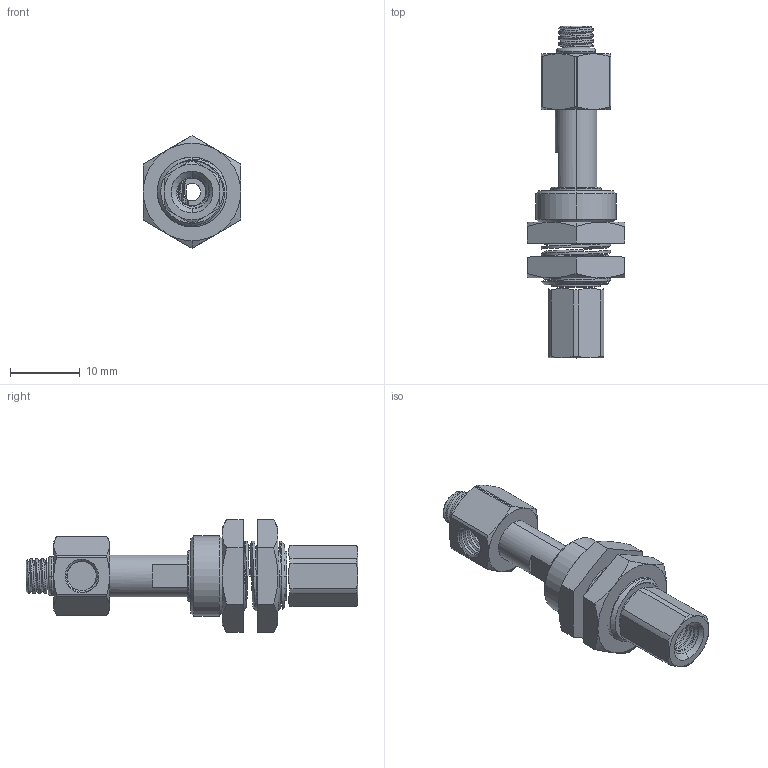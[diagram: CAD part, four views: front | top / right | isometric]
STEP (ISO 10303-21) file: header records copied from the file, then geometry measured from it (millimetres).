
FILE_DESCRIPTION (( 'STEP AP203' ), '1' );
FILE_NAME ('BLN04-SBS5M10NK35-M5_asm〞〞TOC.STEP', '2024-10-17T03:00:17', ( '' ), ( '' ), 'SwSTEP 2.0', 'SolidWorks 2022', '' );
FILE_SCHEMA (( 'CONFIG_CONTROL_DESIGN' ));
Length unit declared in the file: millimetre
Products named in the file (1): BLN04-SBS5M10NK35-M5_asm——TOC
Bounding box: 14 x 47.7 x 16.17 mm (x, y, z)
Surface area: 2480.7 mm2 (no closed solid volume)
Topology: 0 solids, 11 shells, 168 faces, 490 edges, 332 vertices
Faces by surface type: cone 59, cylinder 56, plane 38, bspline 11, torus 4
Entity records: 10541 total; most frequent: CARTESIAN_POINT 6446, ORIENTED_EDGE 832, DIRECTION 733, EDGE_CURVE 490, VERTEX_POINT 332, AXIS2_PLACEMENT_3D 304, B_SPLINE_CURVE_WITH_KNOTS 219, EDGE_LOOP 181
